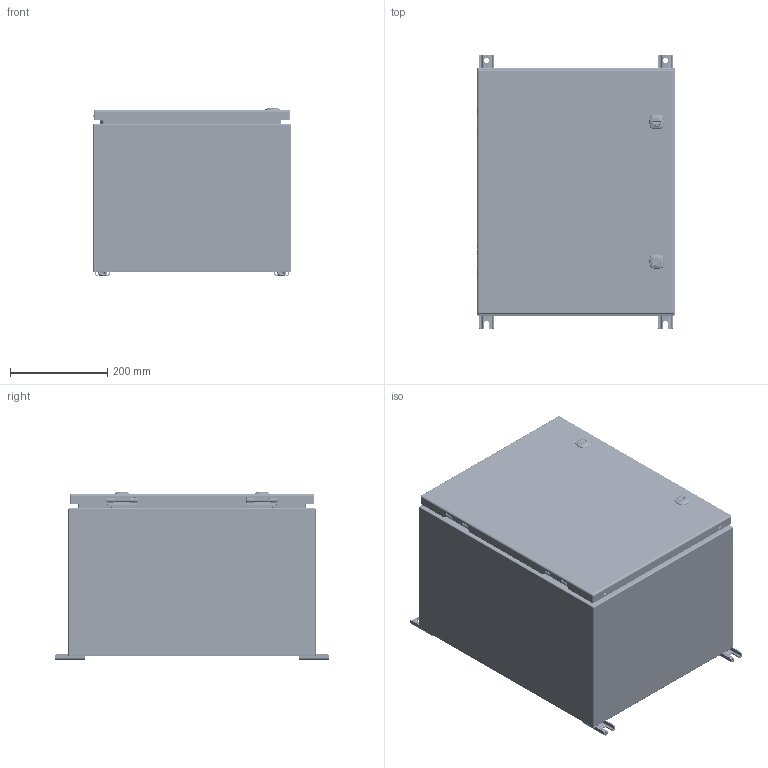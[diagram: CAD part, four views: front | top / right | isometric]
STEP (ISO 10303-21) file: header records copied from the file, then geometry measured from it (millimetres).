
FILE_DESCRIPTION(/* description */ ('5412ESTH 20" x 16" x 12" Assembly'),/* implementation_level */ '2;1');
FILE_NAME(/* name */ 'C:\Vault_Workspace\Inventor_Dwg\BoxCad\Result\5412ESTH201612\e-mail\3D\5412ESTH201612.stp',/* time_stamp */ '2023-05-02T15:41:30-04:00',/* author */ ('BoxCad'),/* organization */ (''),/* preprocessor_version */ 'ST-DEVELOPER v18.1',/* originating_system */ 'Autodesk Inventor 2020',/* authorisation */ '');
FILE_SCHEMA (('AUTOMOTIVE_DESIGN { 1 0 10303 214 3 1 1 }'));
Products named in the file (51): 5412ESTH201612; 5412ESTH201612B; 5412ESTH201612B-P; STK-Q-16005; 5412ESTH201612I-B; 5412ESTH201612I-TP; 5412ESTH201612I-BT; 5412ESTH201612I-LS; 5412ESTH201612I-RS; 5412ESTH201612BR; STK-A-70554; STK-Q-05021; STK-Q-07270; STK-A-70554TH-1; STK-Q-70554; 885ESMF3-Feet; 885ESMF3-Feet-A; STK-Q-06660; RIVET_NUT_M10_FH_CE; 5412ESTH201612C; 5412ESTH201612C-P; 5412ESTH201612G; STK-K-09800; STK-K-09800-2; STK-Q-33014; STK-Q-90398; STK-Q-40095; STK-Q-63410; STK-Q-16055; STK-P-02400S; 5412ESTH201612I-C; STK-Q-46020-20; STK-Q-07250; STK-S-00100; STK-K-12500-1; STK-K-12500-2; STK-Q-78111; STK-Q-78120; STK-Q-78145; STK-Q-03200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
Assembly tree (98 placements, depth 5):
  5412ESTH201612
    5412ESTH201612B
      5412ESTH201612B-P
      STK-Q-16005  x4
      STK-P-02400S
      STK-Q-16055  x4
      5412ESTH201612I-B
      5412ESTH201612I-TP
      5412ESTH201612I-BT
      5412ESTH201612I-LS
      5412ESTH201612I-RS
      5412ESTH201612BR
        STK-A-70554
          STK-Q-70554
          STK-Q-05021
          STK-Q-07270
        STK-A-70554TH-1  x3
          STK-Q-70554
          STK-Q-07250
      885ESMF3-Feet  x2
      STK-Q-06660  x4
      RIVET_NUT_M10_FH_CE  x4
      885ESMF3-Feet-A  x2
    5412ESTH201612C
      5412ESTH201612C-P
      5412ESTH201612G
      STK-K-09800
        STK-Q-33014
        STK-Q-90398
        STK-Q-40095  x2
        STK-Q-63410  x2
      STK-K-09800-2
        STK-Q-33014
        STK-Q-90398
        STK-Q-40095  x2
        STK-Q-63410  x2
      STK-Q-16055  x4
      STK-P-02400S
      5412ESTH201612I-C
      STK-Q-46020-20  x2
      STK-Q-07250  x4
      STK-S-00100  x2
      STK-K-12500-1
        STK-Q-78111
        STK-Q-78120
        STK-Q-78145
        STK-Q-03200
        STK-Q-78141
        STK-Q-90390
        STK-Q-78160
      STK-K-12500-2
        STK-Q-78111
        STK-Q-78120
        STK-Q-78145
        STK-Q-03200
        STK-Q-78141
        STK-Q-90390
        STK-Q-78160
    STK-Q-04050-08-1
      STK-Q-04050-08-P
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Bounding box: 406.47 x 565.15 x 345.38 mm (x, y, z)
Volume: 18294474.4 mm3; surface area: 4635635.9 mm2
Topology: 85 solids, 85 shells, 14056 faces, 37718 edges, 24061 vertices
Faces by surface type: bspline 4540, plane 4323, cylinder 3894, torus 814, cone 312, sphere 173
Full cylindrical faces by diameter (mm): 0.75 x12, 0.762 x12, 1 x8, 1.1 x8, 3.2 x4, 4.191 x32, 4.5 x8, 4.521 x8, 4.75 x1, 4.85 x16, 4.95 x4, 5.1 x132, 5.6 x2, 5.9 x28, 6.015 x32, 6.496 x8, 6.65 x4, 6.8 x60, 7.3 x2, 7.35 x8, 7.366 x4, 7.9 x8, 8 x4, 8.382 x2, 8.5 x4, 9.5 x1, 9.6 x2, 9.7 x36, 10 x2, 10.312 x6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
Entity records: 204931 total; most frequent: CARTESIAN_POINT 84240, ORIENTED_EDGE 27074, DIRECTION 21051, EDGE_CURVE 13537, VERTEX_POINT 8577, AXIS2_PLACEMENT_3D 7506, LINE 6039, VECTOR 6039
